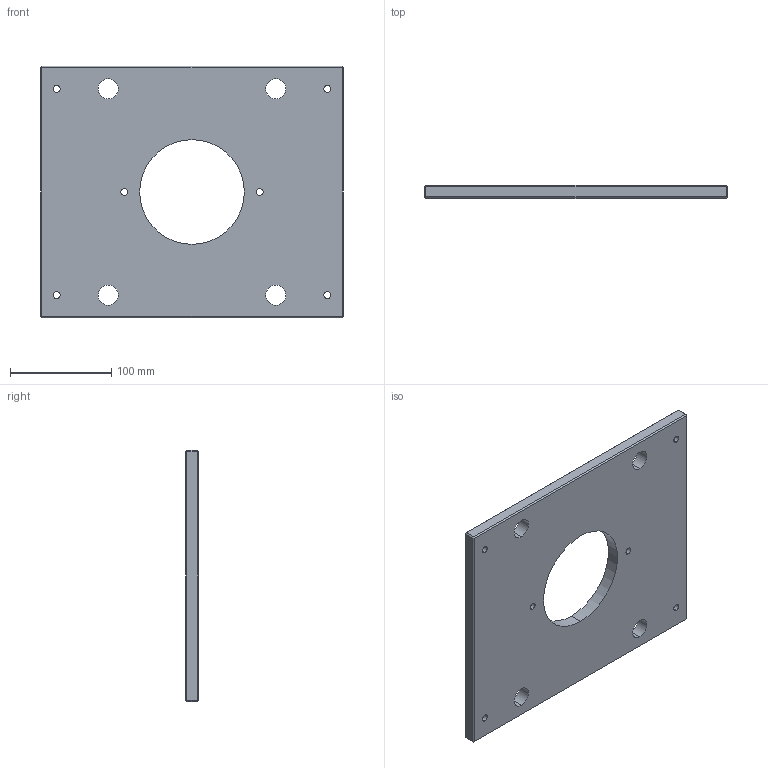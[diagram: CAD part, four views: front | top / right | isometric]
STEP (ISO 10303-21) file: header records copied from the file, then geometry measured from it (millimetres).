
FILE_DESCRIPTION (( 'STEP AP214' ), '1' );
FILE_NAME ('ME-0619-CH-1012.STEP', '2020-02-12T08:08:58', ( '' ), ( '' ), 'SwSTEP 2.0', 'SolidWorks 2018', '' );
FILE_SCHEMA (( 'AUTOMOTIVE_DESIGN' ));
Length unit declared in the file: inch
Products named in the file (1): ME-0619-CH-1012
Bounding box: 298.45 x 12.7 x 247.65 mm (x, y, z)
Volume: 810942.8 mm3; surface area: 149155.1 mm2
Topology: 1 solids, 1 shells, 60 faces, 138 edges, 80 vertices
Faces by surface type: plane 26, cylinder 22, cone 12
Entity records: 1754 total; most frequent: DIRECTION 316, CARTESIAN_POINT 279, ORIENTED_EDGE 276, EDGE_CURVE 138, AXIS2_PLACEMENT_3D 117, VECTOR 82, EDGE_LOOP 82, LINE 82
